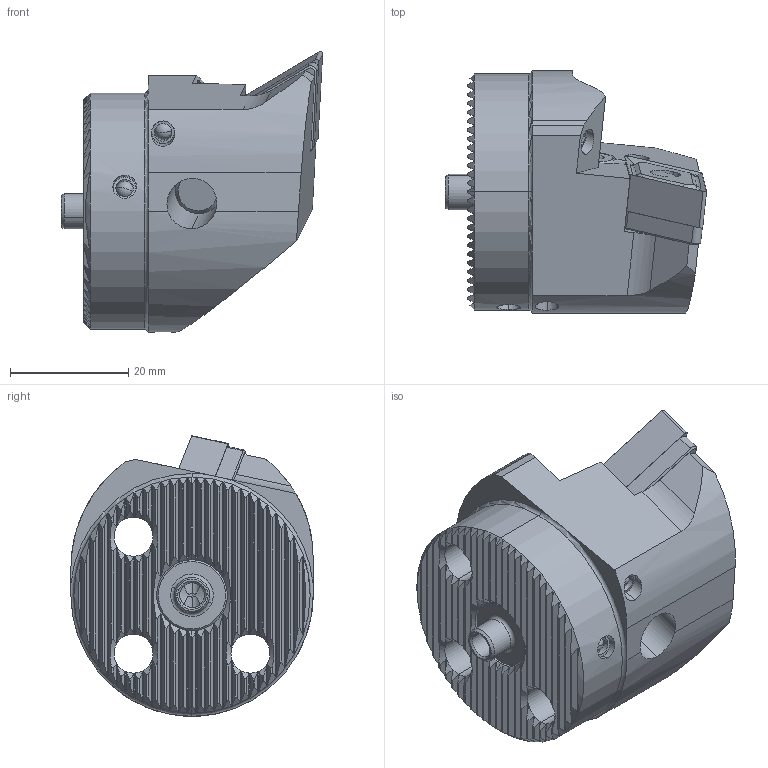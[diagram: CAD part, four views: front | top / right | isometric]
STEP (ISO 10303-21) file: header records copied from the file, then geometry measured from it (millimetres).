
FILE_DESCRIPTION (( 'STEP AP214' ), '1' );
FILE_NAME ('WK1.PDF.LUC.040.STEP', '2020-09-16T12:26:37', ( '' ), ( '' ), 'SwSTEP 2.0', 'SolidWorks 2017', '' );
FILE_SCHEMA (( 'AUTOMOTIVE_DESIGN' ));
Length unit declared in the file: millimetre
Products named in the file (10): WK2-ER1.001.012_A_Fertigbearbeitung; KVT_MB_600_040; WCD-ER4.101.017_A; WCD-ER1.101.000; WKX-ER1.004.005_A_PreviewCfg; WDF-ER3.101.000_A; DNMG150604; WK1.PDF.LUC.040; WDF-ER2.101.003_A; WK1-PDF.LUC.040_A
Assembly tree (12 placements, depth 2):
  WK1.PDF.LUC.040
    WK1-PDF.LUC.040_A
    KVT_MB_600_040  x3
    WDF-ER3.101.000_A
    DNMG150604
    WDF-ER2.101.003_A
    WCD-ER4.101.017_A
    WCD-ER1.101.000
    WKX-ER1.004.005_A_PreviewCfg  x2
    WK2-ER1.001.012_A_Fertigbearbeitung
Bounding box: 44.2 x 41 x 47.5 mm (x, y, z)
Volume: 31459 mm3; surface area: 15278.3 mm2
Topology: 15 solids, 15 shells, 670 faces, 1759 edges, 1099 vertices
Faces by surface type: plane 261, cylinder 218, cone 156, torus 17, bspline 12, sphere 6
Entity records: 20751 total; most frequent: CARTESIAN_POINT 6405, ORIENTED_EDGE 3144, DIRECTION 2584, EDGE_CURVE 1572, VERTEX_POINT 1000, AXIS2_PLACEMENT_3D 976, LINE 632, VECTOR 632
